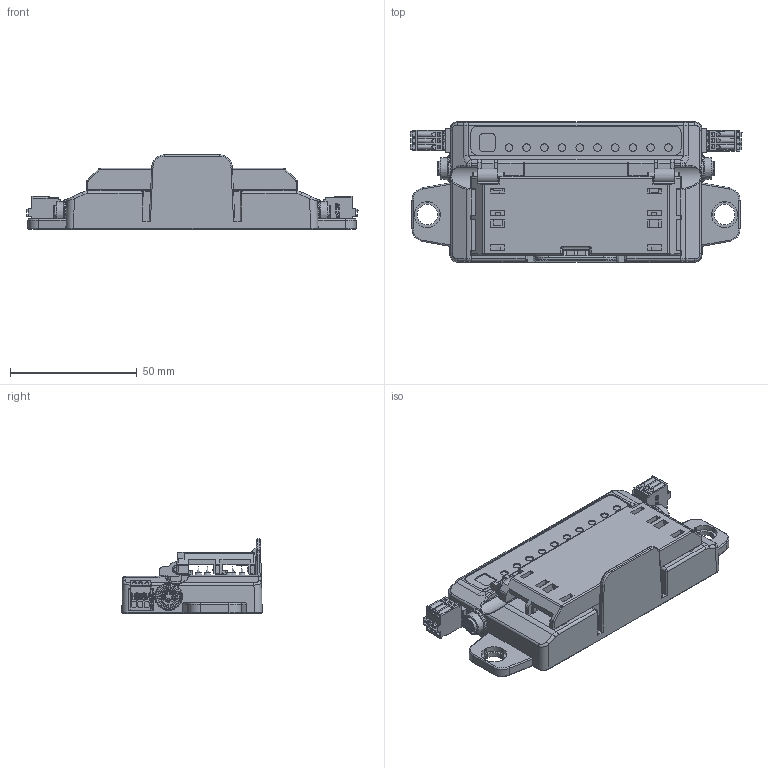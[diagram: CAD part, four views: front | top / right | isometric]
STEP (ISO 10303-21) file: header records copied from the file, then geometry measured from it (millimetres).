
FILE_DESCRIPTION(/* description */ (''),/* implementation_level */ '2;1');
FILE_NAME(/* name */ '内驱IP20-1.5.stp',/* time_stamp */ '2026-03-31T10:06:28+08:00',/* author */ (''),/* organization */ (''),/* preprocessor_version */ 'ST-DEVELOPER v19.4',/* originating_system */ 'SIEMENS PLM Software NX2212.7001',/* authorisation */ '');
FILE_SCHEMA (('AUTOMOTIVE_DESIGN { 1 0 10303 214 3 1 1 1 }'));
Products named in the file (1): 内驱IP20-1.5_stp_objects
Bounding box: 131.17 x 55.48 x 29.3 mm (x, y, z)
Volume: 90962.6 mm3; surface area: 37137.6 mm2
Topology: 12 solids, 22 shells, 3019 faces, 8190 edges, 5366 vertices
Faces by surface type: plane 1863, cylinder 874, cone 118, torus 54, extrusion 48, bspline 44, sphere 18
Full cylindrical faces by diameter (mm): 0.8 x10, 1 x10, 1.06 x10, 1.1 x10, 1.25 x4, 1.3 x10, 1.7 x4, 2.95 x2, 3 x10, 7.15 x2, 7.2 x4, 8.8 x2, 8.85 x2, 9 x2, 10.4 x2
Entity records: 97237 total; most frequent: CARTESIAN_POINT 23489, ORIENTED_EDGE 15842, DIRECTION 13761, EDGE_CURVE 7921, VECTOR 5329, VERTEX_POINT 5283, LINE 5281, AXIS2_PLACEMENT_3D 4216
